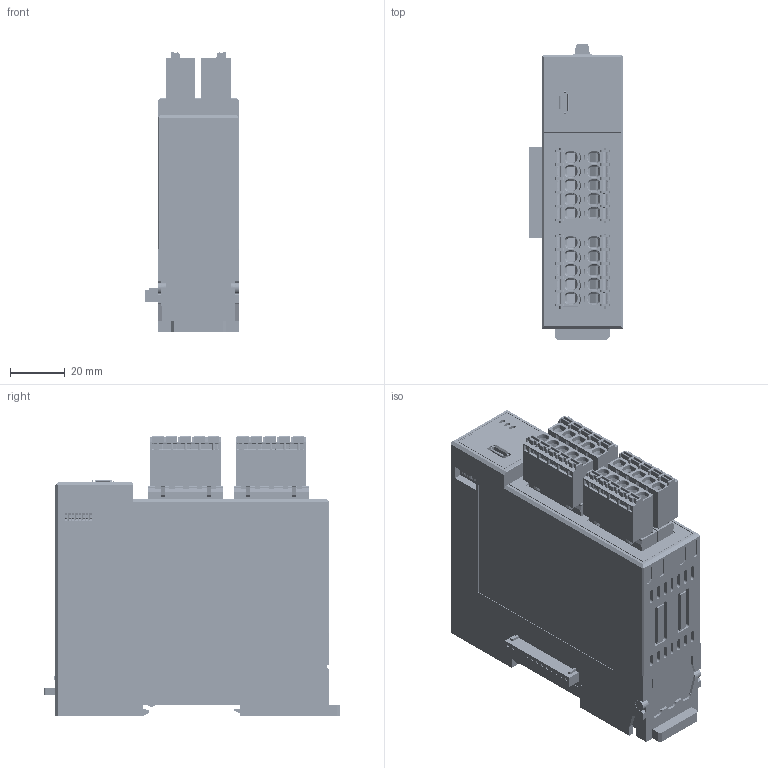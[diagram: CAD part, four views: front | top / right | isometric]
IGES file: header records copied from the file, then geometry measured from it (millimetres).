
Start section: SolidWorks IGES file using analytic representation for surfaces
Global section: file name: D:\KK\CAD_DATA\Q\Q僔儕乕僘\QAM2\D25-027\HP_3D\QAM2-4C_IGES\QAM2-4C_260721.IGS; native system: SolidWorks 2025; preprocessor: SolidWorks 2025; author: kawahara; date: 260722.094738; units: millimetre
Bounding box: 34.5 x 107.85 x 102 mm (x, y, z)
Surface area: 51252.5 mm2 (no closed solid volume)
Topology: 0 solids, 0 shells, 6306 faces, 42393 edges, 42317 vertices
Faces by surface type: bspline 4086, revolution 2220
